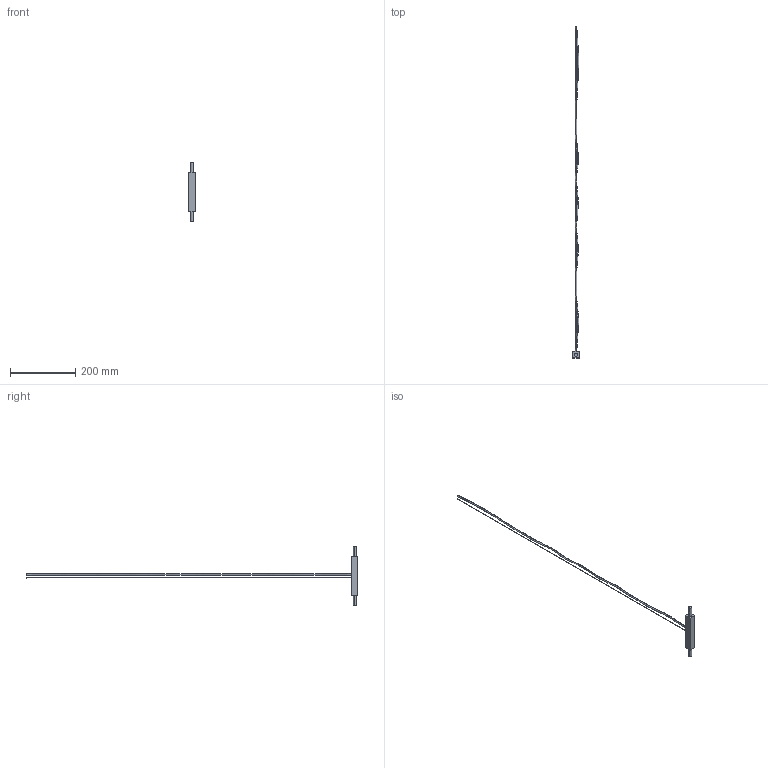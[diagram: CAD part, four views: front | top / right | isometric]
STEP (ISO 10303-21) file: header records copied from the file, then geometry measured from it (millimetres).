
FILE_DESCRIPTION (( 'STEP AP214' ), '1' );
FILE_NAME ('3D_LINESCAPES_CENTRAL_SUPPLY.STEP', '2018-04-09T10:46:10', ( 'Utente' ), ( '' ), 'SwSTEP 2.0', 'SolidWorks 2016', '' );
FILE_SCHEMA (( 'AUTOMOTIVE_DESIGN' ));
Length unit declared in the file: millimetre
Products named in the file (5): TECCENTRAL; CAVO1.2CENTRAL; CAVO4.8CENTRAL; ESTRUSOCENTRAL; 3D_LINESCAPES_CENTRAL_SUPPLY
Assembly tree (5 placements, depth 2):
  3D_LINESCAPES_CENTRAL_SUPPLY
    ESTRUSOCENTRAL
    CAVO4.8CENTRAL
    CAVO1.2CENTRAL
    TECCENTRAL  x2
Bounding box: 20 x 1015 x 182 mm (x, y, z)
Volume: 72039.3 mm3; surface area: 31489.3 mm2
Topology: 5 solids, 5 shells, 22 faces, 36 edges, 24 vertices
Faces by surface type: plane 14, cylinder 6, bspline 2
Entity records: 1480 total; most frequent: CARTESIAN_POINT 936, DIRECTION 88, ORIENTED_EDGE 60, AXIS2_PLACEMENT_3D 36, EDGE_CURVE 30, VERTEX_POINT 20, ADVANCED_FACE 18, FACE_OUTER_BOUND 18
